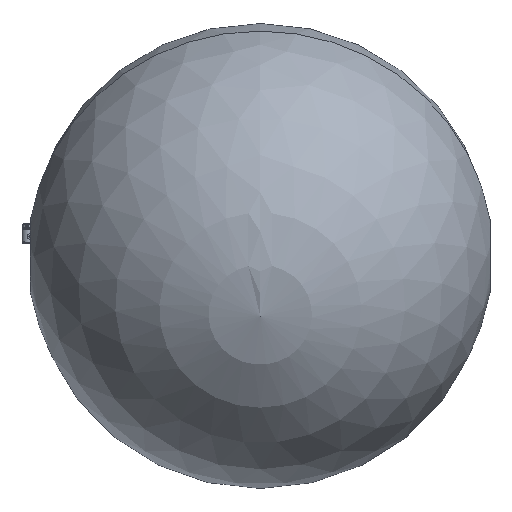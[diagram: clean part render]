
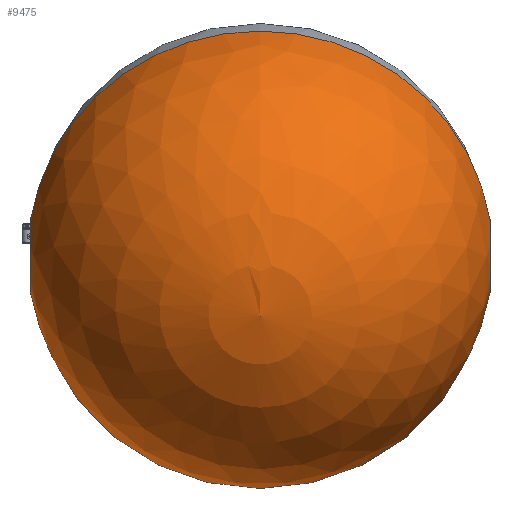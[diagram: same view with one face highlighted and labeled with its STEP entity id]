
A CAD part, left-side view. The second image highlights one B-rep face of the part: STEP entity #9475.
In plain terms, the highlighted spherical face has radius 1900 mm.
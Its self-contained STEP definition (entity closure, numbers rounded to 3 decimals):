
#1199 = CARTESIAN_POINT ( 'NONE',  ( 0., -1876.006, 0. ) ) ;
#2783 = CARTESIAN_POINT ( 'NONE',  ( -301., -1876.006, 0. ) ) ;
#3629 = VERTEX_POINT ( 'NONE', #2783 ) ;
#4733 = DIRECTION ( 'NONE',  ( -1., 0., 0. ) ) ;
#4783 = ORIENTED_EDGE ( 'NONE', *, *, #34922, .T. ) ;
#8585 = AXIS2_PLACEMENT_3D ( 'NONE', #37015, #41938, #91311 ) ;
#9475 = ADVANCED_FACE ( 'NONE', ( #52342 ), #91861, .T. ) ;
#10011 = VERTEX_POINT ( 'NONE', #93239 ) ;
#10686 = VERTEX_POINT ( 'NONE', #72900 ) ;
#12876 = DIRECTION ( 'NONE',  ( 0., 0., -1. ) ) ;
#17667 = CARTESIAN_POINT ( 'NONE',  ( 0., -1876.006, 0. ) ) ;
#19431 = ORIENTED_EDGE ( 'NONE', *, *, #66262, .F. ) ;
#20965 = DIRECTION ( 'NONE',  ( 0., 0., -1. ) ) ;
#21619 = CIRCLE ( 'NONE', #88399, 301. ) ;
#29027 = ORIENTED_EDGE ( 'NONE', *, *, #88967, .F. ) ;
#30986 = ORIENTED_EDGE ( 'NONE', *, *, #56081, .F. ) ;
#32053 = DIRECTION ( 'NONE',  ( 0., -1., 0. ) ) ;
#32493 = CARTESIAN_POINT ( 'NONE',  ( -301., 1876.006, 0. ) ) ;
#33759 = CIRCLE ( 'NONE', #55154, 301. ) ;
#34881 = AXIS2_PLACEMENT_3D ( 'NONE', #47046, #42338, #73562 ) ;
#34922 = EDGE_CURVE ( 'NONE', #86608, #10686, #99343, .T. ) ;
#37015 = CARTESIAN_POINT ( 'NONE',  ( 0., 0., 0. ) ) ;
#37394 = CIRCLE ( 'NONE', #8585, 1900. ) ;
#39237 = CARTESIAN_POINT ( 'NONE',  ( 0., 0., 0. ) ) ;
#41938 = DIRECTION ( 'NONE',  ( 0., 0., -1. ) ) ;
#42338 = DIRECTION ( 'NONE',  ( 0., 0., 1. ) ) ;
#42894 = DIRECTION ( 'NONE',  ( 0., 0., -1. ) ) ;
#44151 = DIRECTION ( 'NONE',  ( 0., -1., 0. ) ) ;
#47046 = CARTESIAN_POINT ( 'NONE',  ( 0., 0., 0. ) ) ;
#51815 = CIRCLE ( 'NONE', #95901, 301. ) ;
#52099 = AXIS2_PLACEMENT_3D ( 'NONE', #100467, #62550, #42894 ) ;
#52342 = FACE_OUTER_BOUND ( 'NONE', #76728, .T. ) ;
#52941 = VERTEX_POINT ( 'NONE', #86894 ) ;
#54650 = CARTESIAN_POINT ( 'NONE',  ( 0., -1876.006, -301. ) ) ;
#55154 = AXIS2_PLACEMENT_3D ( 'NONE', #17667, #68682, #20965 ) ;
#56081 = EDGE_CURVE ( 'NONE', #86608, #3629, #95346, .T. ) ;
#56721 = CARTESIAN_POINT ( 'NONE',  ( 0., 1876.006, 0. ) ) ;
#62550 = DIRECTION ( 'NONE',  ( 0., -1., 0. ) ) ;
#64296 = AXIS2_PLACEMENT_3D ( 'NONE', #39237, #83613, #4733 ) ;
#64386 = ORIENTED_EDGE ( 'NONE', *, *, #81689, .T. ) ;
#66262 = EDGE_CURVE ( 'NONE', #77101, #10011, #51815, .T. ) ;
#68682 = DIRECTION ( 'NONE',  ( 0., -1., 0. ) ) ;
#72900 = CARTESIAN_POINT ( 'NONE',  ( 0., 1876.006, -301. ) ) ;
#73562 = DIRECTION ( 'NONE',  ( 1., 0., 0. ) ) ;
#76728 = EDGE_LOOP ( 'NONE', ( #4783, #80131, #64386, #19431, #29027, #30986 ) ) ;
#77101 = VERTEX_POINT ( 'NONE', #54650 ) ;
#80131 = ORIENTED_EDGE ( 'NONE', *, *, #99258, .T. ) ;
#81689 = EDGE_CURVE ( 'NONE', #52941, #10011, #37394, .T. ) ;
#83613 = DIRECTION ( 'NONE',  ( 0., 0., -1. ) ) ;
#86608 = VERTEX_POINT ( 'NONE', #32493 ) ;
#86894 = CARTESIAN_POINT ( 'NONE',  ( 301., 1876.006, 0. ) ) ;
#88399 = AXIS2_PLACEMENT_3D ( 'NONE', #56721, #32053, #89682 ) ;
#88967 = EDGE_CURVE ( 'NONE', #3629, #77101, #33759, .T. ) ;
#89682 = DIRECTION ( 'NONE',  ( 0., 0., -1. ) ) ;
#91311 = DIRECTION ( 'NONE',  ( -1., 0., 0. ) ) ;
#91861 = SPHERICAL_SURFACE ( 'NONE', #64296, 1900. ) ;
#93239 = CARTESIAN_POINT ( 'NONE',  ( 301., -1876.006, 0. ) ) ;
#95346 = CIRCLE ( 'NONE', #34881, 1900. ) ;
#95901 = AXIS2_PLACEMENT_3D ( 'NONE', #1199, #44151, #12876 ) ;
#99258 = EDGE_CURVE ( 'NONE', #10686, #52941, #21619, .T. ) ;
#99343 = CIRCLE ( 'NONE', #52099, 301. ) ;
#100467 = CARTESIAN_POINT ( 'NONE',  ( 0., 1876.006, 0. ) ) ;
